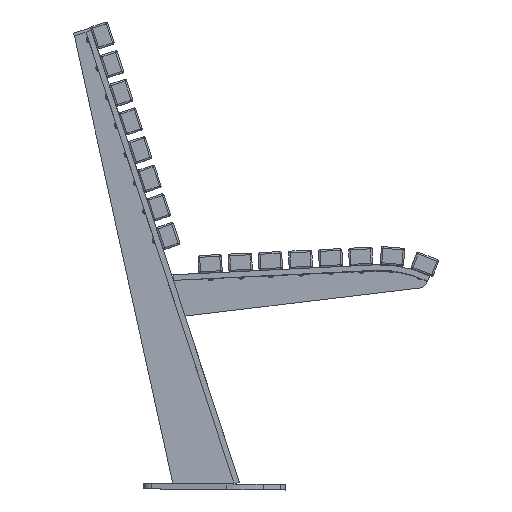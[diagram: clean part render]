
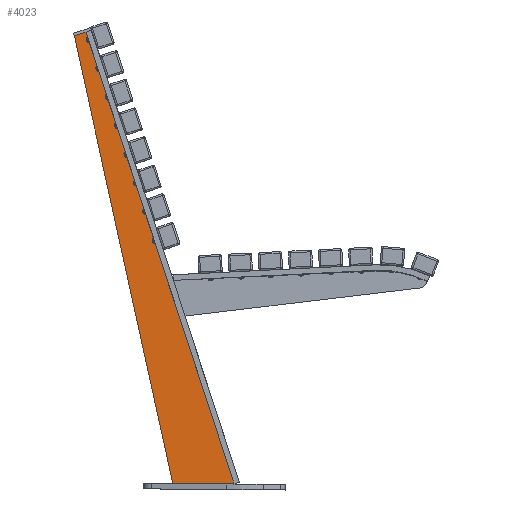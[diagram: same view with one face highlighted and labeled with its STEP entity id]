
A CAD part, left-side view. The second image highlights one B-rep face of the part: STEP entity #4023.
In plain terms, the highlighted planar face has unit normal (-1, 0, 0).
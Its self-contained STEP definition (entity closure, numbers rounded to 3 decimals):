
#4023=ADVANCED_FACE('',(#6791),#43427,.T.);
#6791=FACE_OUTER_BOUND('',#9783,.T.);
#9783=EDGE_LOOP('',(#23507,#23508,#23509,#23510));
#23507=ORIENTED_EDGE('',*,*,#30781,.T.);
#23508=ORIENTED_EDGE('',*,*,#30771,.T.);
#23509=ORIENTED_EDGE('',*,*,#30774,.T.);
#23510=ORIENTED_EDGE('',*,*,#30777,.T.);
#30771=EDGE_CURVE('',#42476,#42475,#32312,.T.);
#30774=EDGE_CURVE('',#42475,#42478,#32315,.T.);
#30777=EDGE_CURVE('',#42478,#42480,#32318,.T.);
#30781=EDGE_CURVE('',#42480,#42476,#32322,.T.);
#32312=B_SPLINE_CURVE_WITH_KNOTS('',1,(#95632,#95633),.UNSPECIFIED.,.F.,
 .F.,(2,2),(0.,2.2),.UNSPECIFIED.);
#32315=B_SPLINE_CURVE_WITH_KNOTS('',1,(#95638,#95639),.UNSPECIFIED.,.F.,
 .F.,(2,2),(0.,82.11),.UNSPECIFIED.);
#32318=B_SPLINE_CURVE_WITH_KNOTS('',1,(#95644,#95645),.UNSPECIFIED.,.F.,
 .F.,(2,2),(0.,10.973),.UNSPECIFIED.);
#32322=B_SPLINE_CURVE_WITH_KNOTS('',1,(#95652,#95653),.UNSPECIFIED.,.F.,
 .F.,(2,2),(0.,85.2),.UNSPECIFIED.);
#42475=VERTEX_POINT('',#95624);
#42476=VERTEX_POINT('',#95625);
#42478=VERTEX_POINT('',#95627);
#42480=VERTEX_POINT('',#95629);
#43427=PLANE('',#46199);
#46199=AXIS2_PLACEMENT_3D('',#95621,#47032,$);
#47032=DIRECTION('',(-1.,0.,0.));
#95621=CARTESIAN_POINT('',(70.,366.188,10.731));
#95624=CARTESIAN_POINT('',(70.,652.375,813.54));
#95625=CARTESIAN_POINT('',(70.,631.469,820.39));
#95627=CARTESIAN_POINT('',(70.,475.929,11.618));
#95629=CARTESIAN_POINT('',(70.,366.201,10.738));
#95632=CARTESIAN_POINT('',(70.,631.469,820.39));
#95633=CARTESIAN_POINT('',(70.,652.375,813.54));
#95638=CARTESIAN_POINT('',(70.,652.375,813.54));
#95639=CARTESIAN_POINT('',(70.,475.929,11.618));
#95644=CARTESIAN_POINT('',(70.,475.929,11.618));
#95645=CARTESIAN_POINT('',(70.,366.201,10.738));
#95652=CARTESIAN_POINT('',(70.,366.201,10.738));
#95653=CARTESIAN_POINT('',(70.,631.469,820.39));
